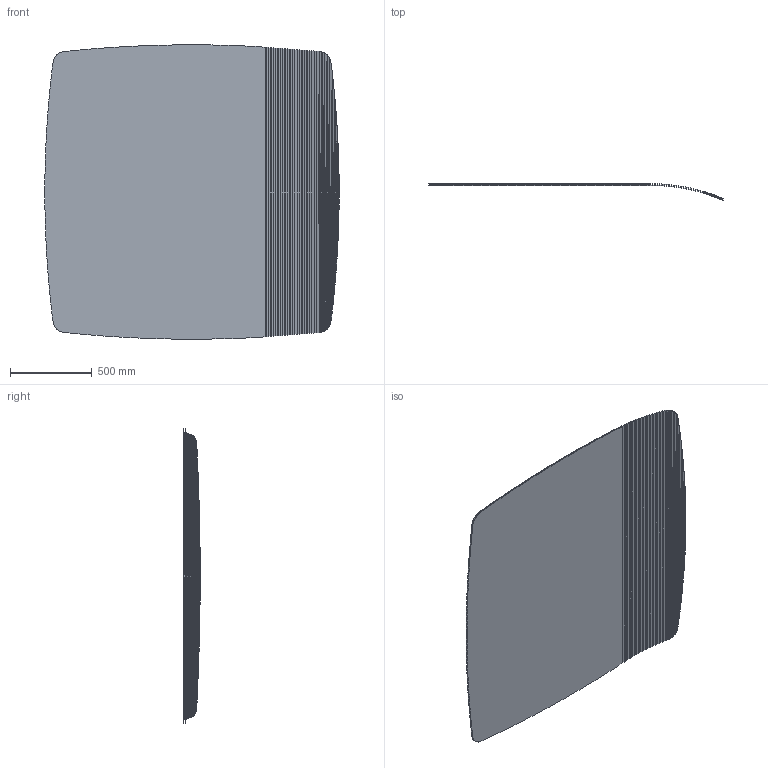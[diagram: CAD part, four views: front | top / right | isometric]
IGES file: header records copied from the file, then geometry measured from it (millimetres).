
Start section: SolidWorks IGES file using analytic representation for surfaces
Global section: file name: Y:\eforma\TECNICO\SOLIDWORKS\E-FORMA\4-SPECCHI\KIRTI\02 parts\KRT02_Kirty_180x180.IGS; native system: SolidWorks 2022; preprocessor: SolidWorks 2022; author: eforma.tech; date: 240806.092537; units: millimetre
Bounding box: 1800.03 x 100.06 x 1800.01 mm (x, y, z)
Surface area: 6249561.7 mm2 (no closed solid volume)
Topology: 0 solids, 0 shells, 395 faces, 1603 edges, 1603 vertices
Faces by surface type: bspline 395
